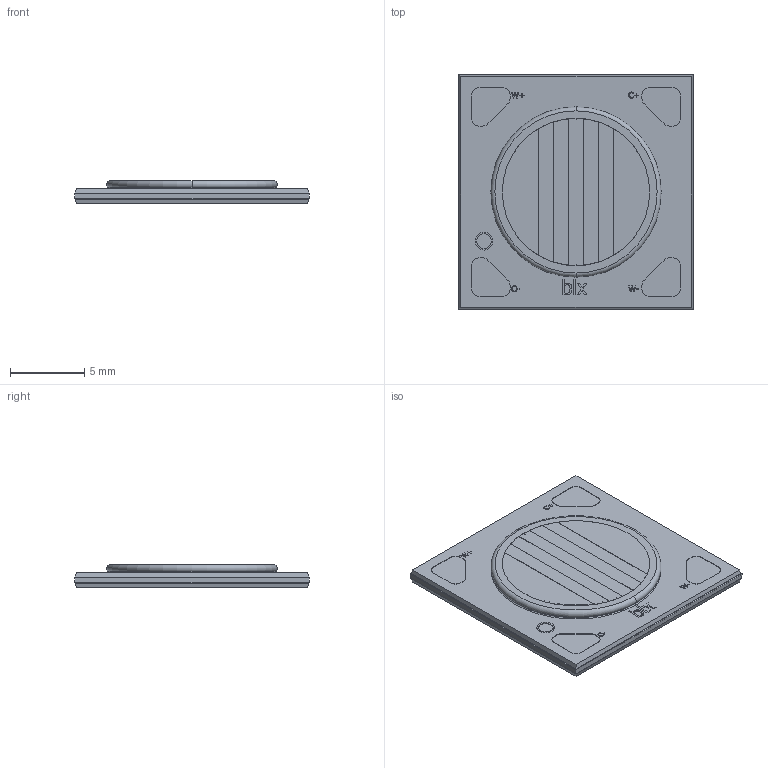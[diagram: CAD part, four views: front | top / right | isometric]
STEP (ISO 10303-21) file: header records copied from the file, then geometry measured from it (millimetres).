
FILE_DESCRIPTION (( 'STEP AP214' ), '1' );
FILE_NAME ('DPTW-9.STEP', '2019-03-28T23:46:42', ( '' ), ( '' ), 'SwSTEP 2.0', 'SolidWorks 2018', '' );
FILE_SCHEMA (( 'AUTOMOTIVE_DESIGN' ));
Length unit declared in the file: millimetre
Products named in the file (1): DPTW-9
Bounding box: 15.85 x 15.85 x 1.54 mm (x, y, z)
Volume: 301.3 mm3; surface area: 780 mm2
Topology: 2 solids, 2 shells, 256 faces, 660 edges, 430 vertices
Faces by surface type: plane 158, cylinder 40, bspline 40, torus 18
Entity records: 11919 total; most frequent: CARTESIAN_POINT 3035, ORIENTED_EDGE 1320, DIRECTION 1110, EDGE_CURVE 660, VECTOR 444, LINE 444, VERTEX_POINT 430, AXIS2_PLACEMENT_3D 333
